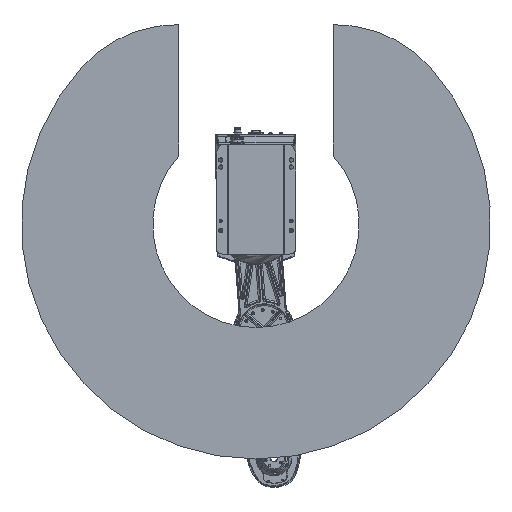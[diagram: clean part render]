
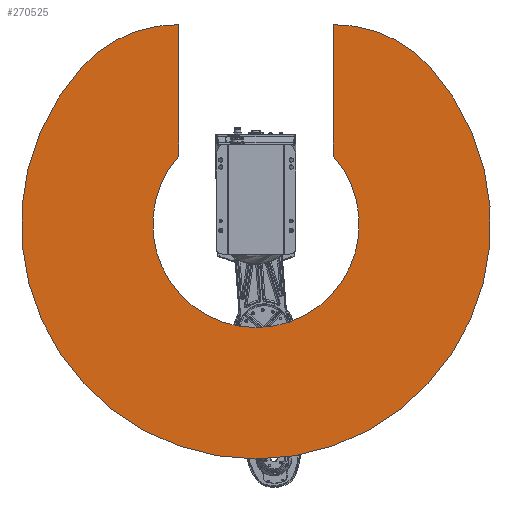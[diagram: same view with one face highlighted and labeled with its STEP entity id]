
A CAD part, front view. The second image highlights one B-rep face of the part: STEP entity #270525.
In plain terms, the highlighted planar face has unit normal (0, -1, 0).
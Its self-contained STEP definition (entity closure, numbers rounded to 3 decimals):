
#6683 = VERTEX_POINT ( 'NONE', #293777 ) ;
#8742 = DIRECTION ( 'NONE',  ( 0., 1., 0. ) ) ;
#12433 = DIRECTION ( 'NONE',  ( 0., 0., -1. ) ) ;
#13370 = EDGE_CURVE ( 'NONE', #45669, #127759, #288453, .T. ) ;
#14066 = CIRCLE ( 'NONE', #358096, 220. ) ;
#19407 = ORIENTED_EDGE ( 'NONE', *, *, #317474, .T. ) ;
#25014 = DIRECTION ( 'NONE',  ( 0., 0., -1. ) ) ;
#34439 = CARTESIAN_POINT ( 'NONE',  ( 165., 0., 425.546 ) ) ;
#37555 = VECTOR ( 'NONE', #12433, 1000. ) ;
#38094 = ORIENTED_EDGE ( 'NONE', *, *, #225588, .T. ) ;
#41122 = CARTESIAN_POINT ( 'NONE',  ( 0., 0., 0. ) ) ;
#45669 = VERTEX_POINT ( 'NONE', #68734 ) ;
#46583 = LINE ( 'NONE', #355028, #37555 ) ;
#56426 = ORIENTED_EDGE ( 'NONE', *, *, #323965, .F. ) ;
#58454 = VERTEX_POINT ( 'NONE', #284399 ) ;
#60961 = CIRCLE ( 'NONE', #289623, 275. ) ;
#62960 = CARTESIAN_POINT ( 'NONE',  ( -371.572, 0., 334.565 ) ) ;
#68734 = CARTESIAN_POINT ( 'NONE',  ( 0., 0., -500. ) ) ;
#69878 = DIRECTION ( 'NONE',  ( 0., 0., -1. ) ) ;
#70107 = FACE_OUTER_BOUND ( 'NONE', #86603, .T. ) ;
#74145 = CARTESIAN_POINT ( 'NONE',  ( 167.208, 0., 150.554 ) ) ;
#80074 = DIRECTION ( 'NONE',  ( 0., 0., -1. ) ) ;
#86603 = EDGE_LOOP ( 'NONE', ( #322580, #19407, #38094, #343448, #56426, #284122, #234321, #100453 ) ) ;
#92016 = DIRECTION ( 'NONE',  ( 0., 0., -1. ) ) ;
#100453 = ORIENTED_EDGE ( 'NONE', *, *, #274399, .F. ) ;
#103029 = DIRECTION ( 'NONE',  ( 0., 0., -1. ) ) ;
#106404 = LINE ( 'NONE', #264512, #249478 ) ;
#123781 = CARTESIAN_POINT ( 'NONE',  ( 165., 0., 145.516 ) ) ;
#127759 = VERTEX_POINT ( 'NONE', #62960 ) ;
#151072 = EDGE_CURVE ( 'NONE', #58454, #330300, #275742, .T. ) ;
#157713 = AXIS2_PLACEMENT_3D ( 'NONE', #223827, #280055, #80074 ) ;
#159987 = EDGE_CURVE ( 'NONE', #127759, #340698, #235719, .T. ) ;
#167221 = CARTESIAN_POINT ( 'NONE',  ( 0., 0., 0. ) ) ;
#170517 = DIRECTION ( 'NONE',  ( 0., 1., 0. ) ) ;
#180154 = PLANE ( 'NONE',  #365454 ) ;
#196004 = DIRECTION ( 'NONE',  ( 0., 0., -1. ) ) ;
#196429 = DIRECTION ( 'NONE',  ( 0., 1., 0. ) ) ;
#204254 = VERTEX_POINT ( 'NONE', #34439 ) ;
#208924 = DIRECTION ( 'NONE',  ( 0., 0., 1. ) ) ;
#223827 = CARTESIAN_POINT ( 'NONE',  ( 0., 0., 0. ) ) ;
#225588 = EDGE_CURVE ( 'NONE', #269283, #58454, #14066, .T. ) ;
#229043 = AXIS2_PLACEMENT_3D ( 'NONE', #341757, #170517, #370534 ) ;
#234321 = ORIENTED_EDGE ( 'NONE', *, *, #13370, .F. ) ;
#235719 = CIRCLE ( 'NONE', #329893, 275. ) ;
#241250 = DIRECTION ( 'NONE',  ( 0., 1., 0. ) ) ;
#244576 = CIRCLE ( 'NONE', #309035, 500. ) ;
#249478 = VECTOR ( 'NONE', #92016, 1000. ) ;
#264512 = CARTESIAN_POINT ( 'NONE',  ( -165., 0., 0. ) ) ;
#264933 = CARTESIAN_POINT ( 'NONE',  ( -165., 0., 425.546 ) ) ;
#265157 = CARTESIAN_POINT ( 'NONE',  ( 0., 0., 0. ) ) ;
#269283 = VERTEX_POINT ( 'NONE', #123781 ) ;
#270525 = ADVANCED_FACE ( 'NONE', ( #70107 ), #180154, .F. ) ;
#274209 = DIRECTION ( 'NONE',  ( 0., 1., 0. ) ) ;
#274399 = EDGE_CURVE ( 'NONE', #6683, #45669, #244576, .T. ) ;
#275742 = CIRCLE ( 'NONE', #229043, 220. ) ;
#280055 = DIRECTION ( 'NONE',  ( 0., 1., 0. ) ) ;
#284122 = ORIENTED_EDGE ( 'NONE', *, *, #159987, .F. ) ;
#284399 = CARTESIAN_POINT ( 'NONE',  ( 0., 0., -220. ) ) ;
#288453 = CIRCLE ( 'NONE', #157713, 500. ) ;
#289623 = AXIS2_PLACEMENT_3D ( 'NONE', #74145, #274209, #103029 ) ;
#293777 = CARTESIAN_POINT ( 'NONE',  ( 371.572, 0., 334.565 ) ) ;
#309035 = AXIS2_PLACEMENT_3D ( 'NONE', #167221, #367146, #196004 ) ;
#314041 = EDGE_CURVE ( 'NONE', #204254, #6683, #60961, .T. ) ;
#317474 = EDGE_CURVE ( 'NONE', #204254, #269283, #46583, .T. ) ;
#322580 = ORIENTED_EDGE ( 'NONE', *, *, #314041, .F. ) ;
#323965 = EDGE_CURVE ( 'NONE', #340698, #330300, #106404, .T. ) ;
#329893 = AXIS2_PLACEMENT_3D ( 'NONE', #367591, #196429, #25014 ) ;
#330300 = VERTEX_POINT ( 'NONE', #356330 ) ;
#340698 = VERTEX_POINT ( 'NONE', #264933 ) ;
#341757 = CARTESIAN_POINT ( 'NONE',  ( 0., 0., 0. ) ) ;
#343448 = ORIENTED_EDGE ( 'NONE', *, *, #151072, .T. ) ;
#355028 = CARTESIAN_POINT ( 'NONE',  ( 165., 0., 0. ) ) ;
#356330 = CARTESIAN_POINT ( 'NONE',  ( -165., 0., 145.516 ) ) ;
#358096 = AXIS2_PLACEMENT_3D ( 'NONE', #41122, #241250, #69878 ) ;
#365454 = AXIS2_PLACEMENT_3D ( 'NONE', #265157, #8742, #208924 ) ;
#367146 = DIRECTION ( 'NONE',  ( 0., 1., 0. ) ) ;
#367591 = CARTESIAN_POINT ( 'NONE',  ( -167.208, 0., 150.554 ) ) ;
#370534 = DIRECTION ( 'NONE',  ( 0., 0., -1. ) ) ;
